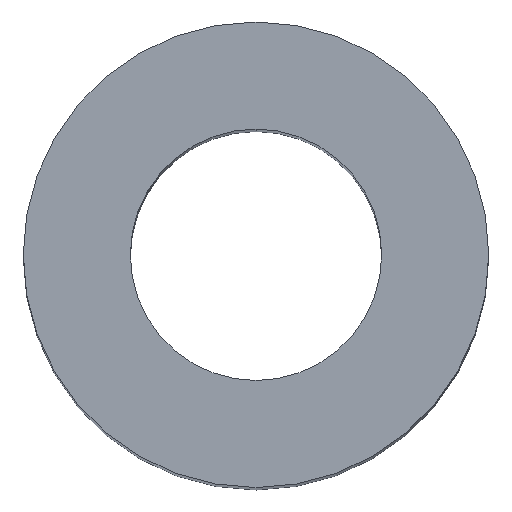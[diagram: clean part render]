
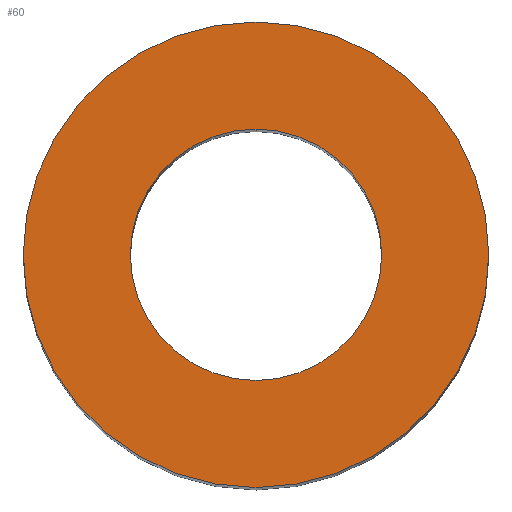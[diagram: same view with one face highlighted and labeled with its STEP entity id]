
A CAD part, top view. The second image highlights one B-rep face of the part: STEP entity #60.
In plain terms, the highlighted planar face has unit normal (0, 0, 1).
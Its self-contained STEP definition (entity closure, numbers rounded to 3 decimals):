
#54=FACE_BOUND('',#72,.F.);
#56=PLANE('',#154);
#60=ADVANCED_FACE('',(#54,#66),#56,.T.);
#66=FACE_OUTER_BOUND('',#73,.F.);
#72=EDGE_LOOP('',(#86,#87));
#73=EDGE_LOOP('',(#88,#89));
#86=ORIENTED_EDGE('',*,*,#122,.T.);
#87=ORIENTED_EDGE('',*,*,#114,.T.);
#88=ORIENTED_EDGE('',*,*,#125,.F.);
#89=ORIENTED_EDGE('',*,*,#117,.F.);
#114=EDGE_CURVE('',#141,#140,#126,.T.);
#117=EDGE_CURVE('',#135,#134,#129,.T.);
#122=EDGE_CURVE('',#140,#141,#130,.T.);
#125=EDGE_CURVE('',#134,#135,#133,.T.);
#126=CIRCLE('',#144,1.35);
#129=CIRCLE('',#147,2.5);
#130=CIRCLE('',#148,1.35);
#133=CIRCLE('',#151,2.5);
#134=VERTEX_POINT('',#196);
#135=VERTEX_POINT('',#197);
#140=VERTEX_POINT('',#202);
#141=VERTEX_POINT('',#203);
#144=AXIS2_PLACEMENT_3D('',#204,#161,#162);
#147=AXIS2_PLACEMENT_3D('',#207,#167,#168);
#148=AXIS2_PLACEMENT_3D('',#212,#173,#174);
#151=AXIS2_PLACEMENT_3D('',#215,#179,#180);
#154=AXIS2_PLACEMENT_3D('',#218,#185,#186);
#161=DIRECTION('',(0.,0.,1.));
#162=DIRECTION('',(0.,-1.,0.));
#167=DIRECTION('',(0.,0.,1.));
#168=DIRECTION('',(0.,-1.,0.));
#173=DIRECTION('',(0.,0.,1.));
#174=DIRECTION('',(0.,1.,0.));
#179=DIRECTION('',(0.,0.,1.));
#180=DIRECTION('',(0.,1.,0.));
#185=DIRECTION('',(0.,0.,1.));
#186=DIRECTION('',(-1.,0.,0.));
#196=CARTESIAN_POINT('',(-184.007,-28.58,-721.435));
#197=CARTESIAN_POINT('',(-184.007,-33.58,-721.435));
#202=CARTESIAN_POINT('',(-184.007,-29.73,-721.435));
#203=CARTESIAN_POINT('',(-184.007,-32.43,-721.435));
#204=CARTESIAN_POINT('',(-184.007,-31.08,-721.435));
#207=CARTESIAN_POINT('',(-184.007,-31.08,-721.435));
#212=CARTESIAN_POINT('',(-184.007,-31.08,-721.435));
#215=CARTESIAN_POINT('',(-184.007,-31.08,-721.435));
#218=CARTESIAN_POINT('',(-181.457,-28.53,-721.435));
